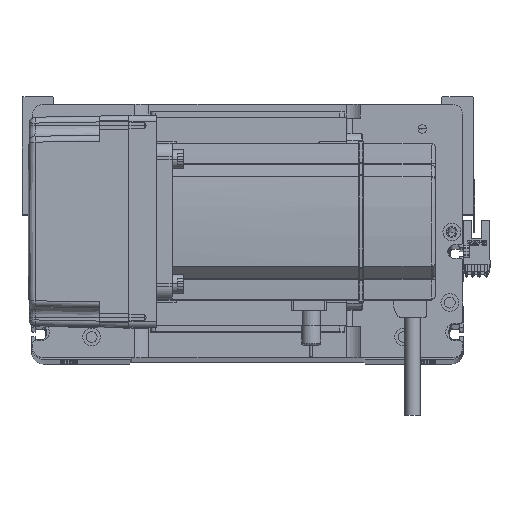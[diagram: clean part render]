
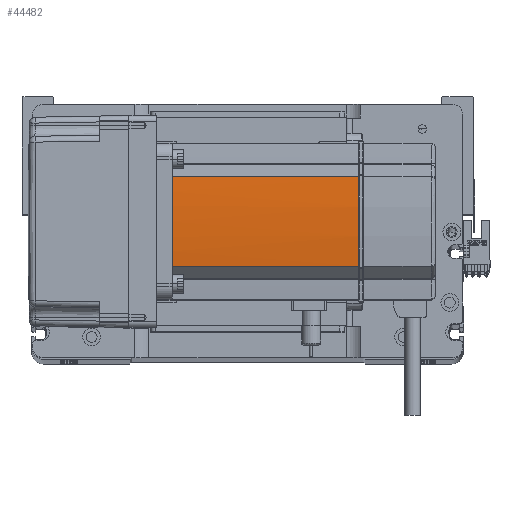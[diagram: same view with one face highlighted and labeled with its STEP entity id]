
A CAD part, top view. The second image highlights one B-rep face of the part: STEP entity #44482.
In plain terms, the highlighted cylindrical face has radius 270 mm (diameter 540 mm), a partial arc.
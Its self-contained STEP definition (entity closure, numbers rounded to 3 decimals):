
#937 = AXIS2_PLACEMENT_3D ( 'NONE', #11980, #20191, #28232 ) ;
#2084 = DIRECTION ( 'NONE',  ( 0., 0., -1. ) ) ;
#3854 = CARTESIAN_POINT ( 'NONE',  ( 40., 0.127, 134. ) ) ;
#4487 = CIRCLE ( 'NONE', #48727, 270. ) ;
#6165 = DIRECTION ( 'NONE',  ( -1., 0., 0. ) ) ;
#7350 = CARTESIAN_POINT ( 'NONE',  ( 39.042, -22.724, 39. ) ) ;
#8238 = CARTESIAN_POINT ( 'NONE',  ( -230., 0., 134. ) ) ;
#8998 = DIRECTION ( 'NONE',  ( -1., 0., 0. ) ) ;
#9142 = VERTEX_POINT ( 'NONE', #25752 ) ;
#10559 = AXIS2_PLACEMENT_3D ( 'NONE', #8238, #28774, #44949 ) ;
#10863 = CARTESIAN_POINT ( 'NONE',  ( 39.042, 22.724, 58. ) ) ;
#10909 = ORIENTED_EDGE ( 'NONE', *, *, #18267, .T. ) ;
#11980 = CARTESIAN_POINT ( 'NONE',  ( -230., 0., 134. ) ) ;
#14104 = EDGE_CURVE ( 'NONE', #20011, #25666, #41026, .T. ) ;
#15111 = DIRECTION ( 'NONE',  ( 0., 0., 1. ) ) ;
#15680 = VERTEX_POINT ( 'NONE', #21492 ) ;
#17098 = CARTESIAN_POINT ( 'NONE',  ( 40., -0.127, 134. ) ) ;
#17310 = EDGE_CURVE ( 'NONE', #9142, #27384, #28078, .T. ) ;
#17483 = VERTEX_POINT ( 'NONE', #23312 ) ;
#18267 = EDGE_CURVE ( 'NONE', #17483, #15680, #52112, .T. ) ;
#18321 = CARTESIAN_POINT ( 'NONE',  ( -230., 0., 58. ) ) ;
#20011 = VERTEX_POINT ( 'NONE', #34624 ) ;
#20191 = DIRECTION ( 'NONE',  ( 0., 0., -1. ) ) ;
#21190 = CARTESIAN_POINT ( 'NONE',  ( 40., 0.127, 134. ) ) ;
#21191 = ORIENTED_EDGE ( 'NONE', *, *, #14104, .F. ) ;
#21492 = CARTESIAN_POINT ( 'NONE',  ( 39.042, 22.724, 134. ) ) ;
#22928 = FACE_OUTER_BOUND ( 'NONE', #38550, .T. ) ;
#22939 = VECTOR ( 'NONE', #33365, 1000. ) ;
#23312 = CARTESIAN_POINT ( 'NONE',  ( 39.042, 22.724, 39. ) ) ;
#23532 = CYLINDRICAL_SURFACE ( 'NONE', #52011, 270. ) ;
#23586 = EDGE_CURVE ( 'NONE', #15680, #25666, #26365, .T. ) ;
#25110 = CARTESIAN_POINT ( 'NONE',  ( 39.042, -22.724, 58. ) ) ;
#25666 = VERTEX_POINT ( 'NONE', #3854 ) ;
#25752 = CARTESIAN_POINT ( 'NONE',  ( 39.042, -22.724, 134. ) ) ;
#26365 = CIRCLE ( 'NONE', #937, 270. ) ;
#27384 = VERTEX_POINT ( 'NONE', #7350 ) ;
#28078 = LINE ( 'NONE', #25110, #22939 ) ;
#28232 = DIRECTION ( 'NONE',  ( -1., 0., 0. ) ) ;
#28774 = DIRECTION ( 'NONE',  ( 0., 0., -1. ) ) ;
#33365 = DIRECTION ( 'NONE',  ( 0., 0., -1. ) ) ;
#33983 = ORIENTED_EDGE ( 'NONE', *, *, #17310, .T. ) ;
#34624 = CARTESIAN_POINT ( 'NONE',  ( 40., -0.127, 134. ) ) ;
#35274 = EDGE_CURVE ( 'NONE', #20011, #9142, #38046, .T. ) ;
#38046 = CIRCLE ( 'NONE', #10559, 270. ) ;
#38550 = EDGE_LOOP ( 'NONE', ( #33983, #38676, #10909, #50128, #21191, #40770 ) ) ;
#38676 = ORIENTED_EDGE ( 'NONE', *, *, #47060, .F. ) ;
#40770 = ORIENTED_EDGE ( 'NONE', *, *, #35274, .T. ) ;
#40937 = CARTESIAN_POINT ( 'NONE',  ( 40., -0.042, 134. ) ) ;
#41026 = B_SPLINE_CURVE_WITH_KNOTS ( 'NONE', 3,
 ( #17098, #40937, #45578, #21190 ),
 .UNSPECIFIED., .F., .F.,
 ( 4, 4 ),
 ( 0., 1. ),
 .UNSPECIFIED. ) ;
#41910 = VECTOR ( 'NONE', #15111, 1000. ) ;
#44482 = ADVANCED_FACE ( 'NONE', ( #22928 ), #23532, .T. ) ;
#44949 = DIRECTION ( 'NONE',  ( -1., 0., 0. ) ) ;
#45578 = CARTESIAN_POINT ( 'NONE',  ( 40., 0.042, 134. ) ) ;
#46064 = DIRECTION ( 'NONE',  ( 0., 0., -1. ) ) ;
#47060 = EDGE_CURVE ( 'NONE', #17483, #27384, #4487, .T. ) ;
#48727 = AXIS2_PLACEMENT_3D ( 'NONE', #50523, #46064, #8998 ) ;
#50128 = ORIENTED_EDGE ( 'NONE', *, *, #23586, .T. ) ;
#50523 = CARTESIAN_POINT ( 'NONE',  ( -230., 0., 39. ) ) ;
#52011 = AXIS2_PLACEMENT_3D ( 'NONE', #18321, #2084, #6165 ) ;
#52112 = LINE ( 'NONE', #10863, #41910 ) ;
